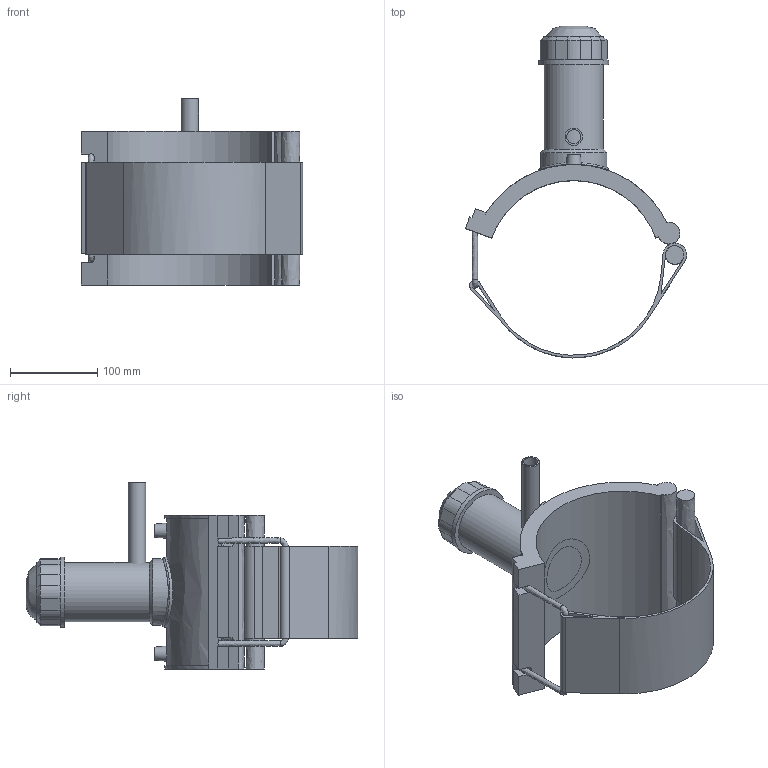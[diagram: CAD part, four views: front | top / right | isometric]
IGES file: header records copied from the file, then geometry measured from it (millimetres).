
Global section: file name: 4963P4200020; native system: Autodesk Inventor 2019; preprocessor: unknown; author: KIM; date: 20220317.113129; units: millimetre
Bounding box: 253.18 x 379.98 x 213 mm (x, y, z)
Volume: 1499763.3 mm3; surface area: 325963.7 mm2
Topology: 3 solids, 3 shells, 122 faces, 309 edges, 201 vertices
Faces by surface type: bspline 122
